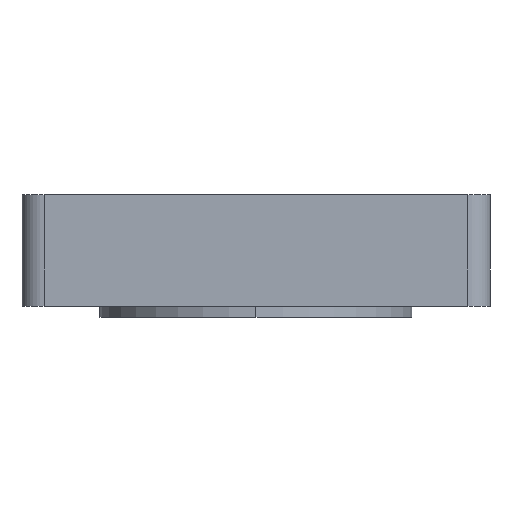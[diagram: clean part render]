
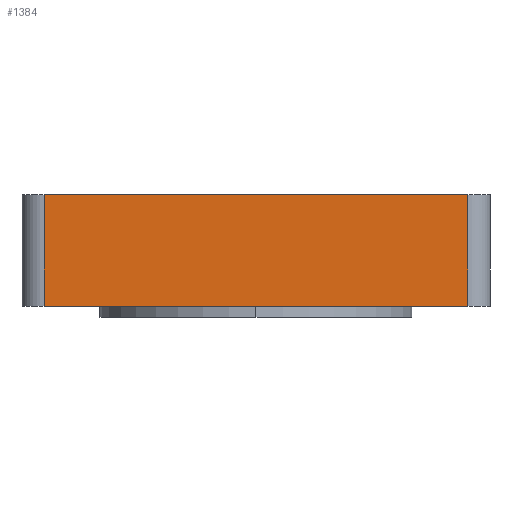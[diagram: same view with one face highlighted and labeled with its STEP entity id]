
A CAD part, left-side view. The second image highlights one B-rep face of the part: STEP entity #1384.
In plain terms, the highlighted planar face has unit normal (-1, 0, 0).
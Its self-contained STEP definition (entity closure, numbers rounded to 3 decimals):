
#35 = VECTOR ( 'NONE', #172, 1000. ) ;
#81 = DIRECTION ( 'NONE',  ( 0., -1., 0. ) ) ;
#151 = AXIS2_PLACEMENT_3D ( 'NONE', #204, #1084, #826 ) ;
#153 = ORIENTED_EDGE ( 'NONE', *, *, #550, .T. ) ;
#157 = EDGE_CURVE ( 'NONE', #555, #721, #1031, .T. ) ;
#163 = FACE_OUTER_BOUND ( 'NONE', #173, .T. ) ;
#172 = DIRECTION ( 'NONE',  ( 0., 0., -1. ) ) ;
#173 = EDGE_LOOP ( 'NONE', ( #153, #466, #1056, #762 ) ) ;
#204 = CARTESIAN_POINT ( 'NONE',  ( -21., -21., 10. ) ) ;
#281 = CARTESIAN_POINT ( 'NONE',  ( -21., -19., 10. ) ) ;
#283 = LINE ( 'NONE', #742, #1104 ) ;
#295 = EDGE_CURVE ( 'NONE', #555, #1127, #521, .T. ) ;
#306 = VECTOR ( 'NONE', #81, 1000. ) ;
#375 = LINE ( 'NONE', #281, #673 ) ;
#433 = CARTESIAN_POINT ( 'NONE',  ( -21., -21., 10. ) ) ;
#466 = ORIENTED_EDGE ( 'NONE', *, *, #1369, .T. ) ;
#480 = CARTESIAN_POINT ( 'NONE',  ( -21., -19., 10. ) ) ;
#521 = LINE ( 'NONE', #433, #306 ) ;
#534 = CARTESIAN_POINT ( 'NONE',  ( -21., 19., 10. ) ) ;
#550 = EDGE_CURVE ( 'NONE', #721, #1553, #283, .T. ) ;
#555 = VERTEX_POINT ( 'NONE', #747 ) ;
#673 = VECTOR ( 'NONE', #1276, 1000. ) ;
#721 = VERTEX_POINT ( 'NONE', #1133 ) ;
#742 = CARTESIAN_POINT ( 'NONE',  ( -21., -21., 0. ) ) ;
#747 = CARTESIAN_POINT ( 'NONE',  ( -21., 19., 10. ) ) ;
#762 = ORIENTED_EDGE ( 'NONE', *, *, #157, .T. ) ;
#826 = DIRECTION ( 'NONE',  ( 0., 0., -1. ) ) ;
#881 = DIRECTION ( 'NONE',  ( 0., -1., 0. ) ) ;
#1031 = LINE ( 'NONE', #534, #35 ) ;
#1056 = ORIENTED_EDGE ( 'NONE', *, *, #295, .F. ) ;
#1069 = PLANE ( 'NONE',  #151 ) ;
#1084 = DIRECTION ( 'NONE',  ( 1., 0., 0. ) ) ;
#1092 = CARTESIAN_POINT ( 'NONE',  ( -21., -19., 0. ) ) ;
#1104 = VECTOR ( 'NONE', #881, 1000. ) ;
#1127 = VERTEX_POINT ( 'NONE', #480 ) ;
#1133 = CARTESIAN_POINT ( 'NONE',  ( -21., 19., 0. ) ) ;
#1276 = DIRECTION ( 'NONE',  ( 0., 0., 1. ) ) ;
#1369 = EDGE_CURVE ( 'NONE', #1553, #1127, #375, .T. ) ;
#1384 = ADVANCED_FACE ( 'NONE', ( #163 ), #1069, .F. ) ;
#1553 = VERTEX_POINT ( 'NONE', #1092 ) ;
